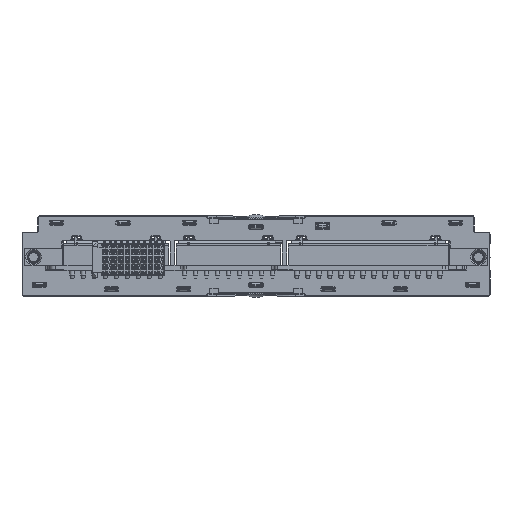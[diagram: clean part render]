
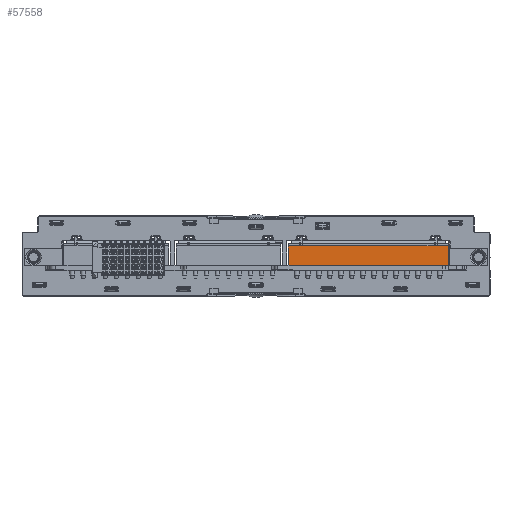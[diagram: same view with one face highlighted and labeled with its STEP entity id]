
A CAD part, top view. The second image highlights one B-rep face of the part: STEP entity #57558.
In plain terms, the highlighted planar face has unit normal (0, 0, 1).
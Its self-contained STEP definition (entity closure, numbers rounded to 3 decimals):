
#3802=FACE_OUTER_BOUND('',#7077,.T.);
#7077=EDGE_LOOP('',(#43107,#43108,#43109,#43110));
#11273=LINE('',#94076,#16908);
#11274=LINE('',#94079,#16909);
#11275=LINE('',#94081,#16910);
#11276=LINE('',#94082,#16911);
#16908=VECTOR('',#73103,10.);
#16909=VECTOR('',#73106,10.);
#16910=VECTOR('',#73107,10.);
#16911=VECTOR('',#73108,10.);
#24470=VERTEX_POINT('',#94072);
#24471=VERTEX_POINT('',#94074);
#24472=VERTEX_POINT('',#94078);
#24473=VERTEX_POINT('',#94080);
#31076=EDGE_CURVE('',#24470,#24471,#11273,.T.);
#31077=EDGE_CURVE('',#24472,#24470,#11274,.T.);
#31078=EDGE_CURVE('',#24473,#24471,#11275,.T.);
#31079=EDGE_CURVE('',#24472,#24473,#11276,.T.);
#43107=ORIENTED_EDGE('',*,*,#31077,.T.);
#43108=ORIENTED_EDGE('',*,*,#31076,.T.);
#43109=ORIENTED_EDGE('',*,*,#31078,.F.);
#43110=ORIENTED_EDGE('',*,*,#31079,.F.);
#51387=PLANE('',#62277);
#57558=ADVANCED_FACE('',(#3802),#51387,.T.);
#62277=AXIS2_PLACEMENT_3D('',#94077,#73104,#73105);
#73103=DIRECTION('',(-1.,0.,0.));
#73104=DIRECTION('center_axis',(0.,0.,
1.));
#73105=DIRECTION('ref_axis',(0.,1.,0.));
#73106=DIRECTION('',(0.,1.,0.));
#73107=DIRECTION('',(0.,1.,0.));
#73108=DIRECTION('',(-1.,0.,0.));
#94072=CARTESIAN_POINT('',(66.5,6.9,6.));
#94074=CARTESIAN_POINT('',(11.16,6.9,6.));
#94076=CARTESIAN_POINT('',(66.5,6.9,6.));
#94077=CARTESIAN_POINT('Origin',(66.5,0.,6.));
#94078=CARTESIAN_POINT('',(66.5,0.,6.));
#94079=CARTESIAN_POINT('',(66.5,0.,6.));
#94080=CARTESIAN_POINT('',(11.16,0.,6.));
#94081=CARTESIAN_POINT('',(11.16,0.,6.));
#94082=CARTESIAN_POINT('',(69.75,0.,6.));
